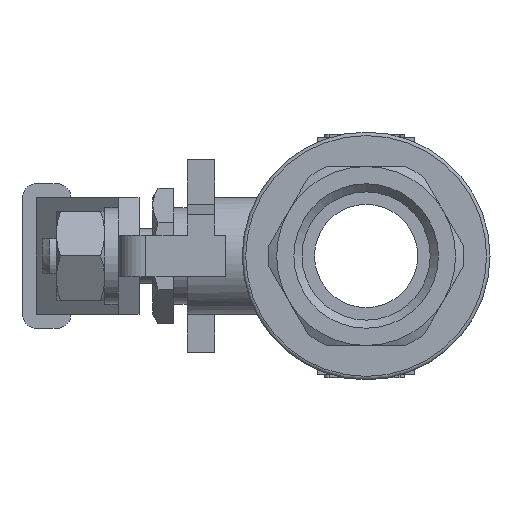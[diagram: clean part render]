
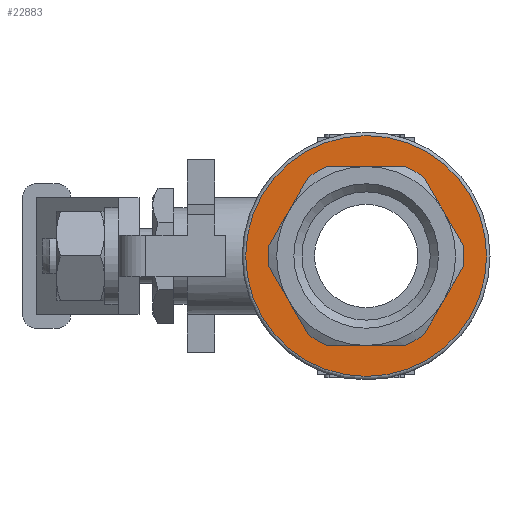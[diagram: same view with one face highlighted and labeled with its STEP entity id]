
A CAD part, left-side view. The second image highlights one B-rep face of the part: STEP entity #22883.
In plain terms, the highlighted planar face has unit normal (-1, 0, 0).
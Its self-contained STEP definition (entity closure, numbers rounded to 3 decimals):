
#310=FACE_BOUND('',#3747,.T.);
#1431=PLANE('',#24085);
#2531=FACE_OUTER_BOUND('',#3746,.T.);
#3746=EDGE_LOOP('',(#20331));
#3747=EDGE_LOOP('',(#20332,#20333,#20334,#20335,#20336,#20337,#20338,#20339,
#20340,#20341,#20342,#20343));
#6370=LINE('',#37142,#8978);
#6371=LINE('',#37146,#8979);
#6372=LINE('',#37150,#8980);
#6373=LINE('',#37154,#8981);
#6374=LINE('',#37158,#8982);
#6375=LINE('',#37161,#8983);
#8978=VECTOR('',#29009,10.);
#8979=VECTOR('',#29012,10.);
#8980=VECTOR('',#29015,10.);
#8981=VECTOR('',#29018,10.);
#8982=VECTOR('',#29021,10.);
#8983=VECTOR('',#29024,10.);
#9177=CIRCLE('',#24083,17.5);
#9179=CIRCLE('',#24086,14.2);
#9180=CIRCLE('',#24087,14.2);
#9181=CIRCLE('',#24088,14.2);
#9182=CIRCLE('',#24089,14.2);
#9183=CIRCLE('',#24090,14.2);
#9184=CIRCLE('',#24091,14.2);
#11207=VERTEX_POINT('',#37133);
#11208=VERTEX_POINT('',#37138);
#11209=VERTEX_POINT('',#37139);
#11210=VERTEX_POINT('',#37141);
#11211=VERTEX_POINT('',#37143);
#11212=VERTEX_POINT('',#37145);
#11213=VERTEX_POINT('',#37147);
#11214=VERTEX_POINT('',#37149);
#11215=VERTEX_POINT('',#37151);
#11216=VERTEX_POINT('',#37153);
#11217=VERTEX_POINT('',#37155);
#11218=VERTEX_POINT('',#37157);
#11219=VERTEX_POINT('',#37159);
#14261=EDGE_CURVE('',#11207,#11207,#9177,.T.);
#14263=EDGE_CURVE('',#11208,#11209,#9179,.T.);
#14264=EDGE_CURVE('',#11209,#11210,#6370,.T.);
#14265=EDGE_CURVE('',#11210,#11211,#9180,.T.);
#14266=EDGE_CURVE('',#11211,#11212,#6371,.T.);
#14267=EDGE_CURVE('',#11212,#11213,#9181,.T.);
#14268=EDGE_CURVE('',#11213,#11214,#6372,.T.);
#14269=EDGE_CURVE('',#11214,#11215,#9182,.T.);
#14270=EDGE_CURVE('',#11215,#11216,#6373,.T.);
#14271=EDGE_CURVE('',#11216,#11217,#9183,.T.);
#14272=EDGE_CURVE('',#11217,#11218,#6374,.T.);
#14273=EDGE_CURVE('',#11218,#11219,#9184,.T.);
#14274=EDGE_CURVE('',#11219,#11208,#6375,.T.);
#20331=ORIENTED_EDGE('',*,*,#14261,.F.);
#20332=ORIENTED_EDGE('',*,*,#14263,.T.);
#20333=ORIENTED_EDGE('',*,*,#14264,.T.);
#20334=ORIENTED_EDGE('',*,*,#14265,.T.);
#20335=ORIENTED_EDGE('',*,*,#14266,.T.);
#20336=ORIENTED_EDGE('',*,*,#14267,.T.);
#20337=ORIENTED_EDGE('',*,*,#14268,.T.);
#20338=ORIENTED_EDGE('',*,*,#14269,.T.);
#20339=ORIENTED_EDGE('',*,*,#14270,.T.);
#20340=ORIENTED_EDGE('',*,*,#14271,.T.);
#20341=ORIENTED_EDGE('',*,*,#14272,.T.);
#20342=ORIENTED_EDGE('',*,*,#14273,.T.);
#20343=ORIENTED_EDGE('',*,*,#14274,.T.);
#22883=ADVANCED_FACE('',(#2531,#310),#1431,.T.);
#24083=AXIS2_PLACEMENT_3D('',#37135,#29001,#29002);
#24085=AXIS2_PLACEMENT_3D('',#37137,#29005,#29006);
#24086=AXIS2_PLACEMENT_3D('',#37140,#29007,#29008);
#24087=AXIS2_PLACEMENT_3D('',#37144,#29010,#29011);
#24088=AXIS2_PLACEMENT_3D('',#37148,#29013,#29014);
#24089=AXIS2_PLACEMENT_3D('',#37152,#29016,#29017);
#24090=AXIS2_PLACEMENT_3D('',#37156,#29019,#29020);
#24091=AXIS2_PLACEMENT_3D('',#37160,#29022,#29023);
#29001=DIRECTION('center_axis',(1.,0.,0.));
#29002=DIRECTION('ref_axis',(0.,-1.,0.));
#29005=DIRECTION('center_axis',(-1.,0.,0.));
#29006=DIRECTION('ref_axis',(0.,0.,1.));
#29007=DIRECTION('center_axis',(1.,0.,0.));
#29008=DIRECTION('ref_axis',(0.,1.,0.));
#29009=DIRECTION('',(0.,-0.5,0.866));
#29010=DIRECTION('center_axis',(1.,0.,0.));
#29011=DIRECTION('ref_axis',(0.,1.,0.));
#29012=DIRECTION('',(0.,-1.,0.));
#29013=DIRECTION('center_axis',(1.,0.,0.));
#29014=DIRECTION('ref_axis',(0.,1.,0.));
#29015=DIRECTION('',(0.,-0.5,-0.866));
#29016=DIRECTION('center_axis',(1.,0.,0.));
#29017=DIRECTION('ref_axis',(0.,1.,0.));
#29018=DIRECTION('',(0.,0.5,-0.866));
#29019=DIRECTION('center_axis',(1.,0.,0.));
#29020=DIRECTION('ref_axis',(0.,1.,0.));
#29021=DIRECTION('',(0.,1.,0.));
#29022=DIRECTION('center_axis',(1.,0.,0.));
#29023=DIRECTION('ref_axis',(0.,1.,0.));
#29024=DIRECTION('',(0.,0.5,0.866));
#37133=CARTESIAN_POINT('',(-47.111,-10.43,17.5));
#37135=CARTESIAN_POINT('Origin',(-47.111,-10.43,0.));
#37137=CARTESIAN_POINT('Origin',(-47.111,5.67,0.));
#37138=CARTESIAN_POINT('',(-47.111,3.685,-1.552));
#37139=CARTESIAN_POINT('',(-47.111,3.685,1.552));
#37140=CARTESIAN_POINT('Origin',(-47.111,-10.43,0.));
#37141=CARTESIAN_POINT('',(-47.111,-2.028,11.448));
#37142=CARTESIAN_POINT('',(-47.111,3.685,1.552));
#37143=CARTESIAN_POINT('',(-47.111,-4.717,13.));
#37144=CARTESIAN_POINT('Origin',(-47.111,-10.43,0.));
#37145=CARTESIAN_POINT('',(-47.111,-16.143,13.));
#37146=CARTESIAN_POINT('',(-47.111,-4.717,13.));
#37147=CARTESIAN_POINT('',(-47.111,-18.832,11.448));
#37148=CARTESIAN_POINT('Origin',(-47.111,-10.43,0.));
#37149=CARTESIAN_POINT('',(-47.111,-24.545,1.552));
#37150=CARTESIAN_POINT('',(-47.111,-18.832,11.448));
#37151=CARTESIAN_POINT('',(-47.111,-24.545,-1.552));
#37152=CARTESIAN_POINT('Origin',(-47.111,-10.43,0.));
#37153=CARTESIAN_POINT('',(-47.111,-18.832,-11.448));
#37154=CARTESIAN_POINT('',(-47.111,-24.545,-1.552));
#37155=CARTESIAN_POINT('',(-47.111,-16.143,-13.));
#37156=CARTESIAN_POINT('Origin',(-47.111,-10.43,0.));
#37157=CARTESIAN_POINT('',(-47.111,-4.717,-13.));
#37158=CARTESIAN_POINT('',(-47.111,-16.143,-13.));
#37159=CARTESIAN_POINT('',(-47.111,-2.028,-11.448));
#37160=CARTESIAN_POINT('Origin',(-47.111,-10.43,0.));
#37161=CARTESIAN_POINT('',(-47.111,-2.028,-11.448));
